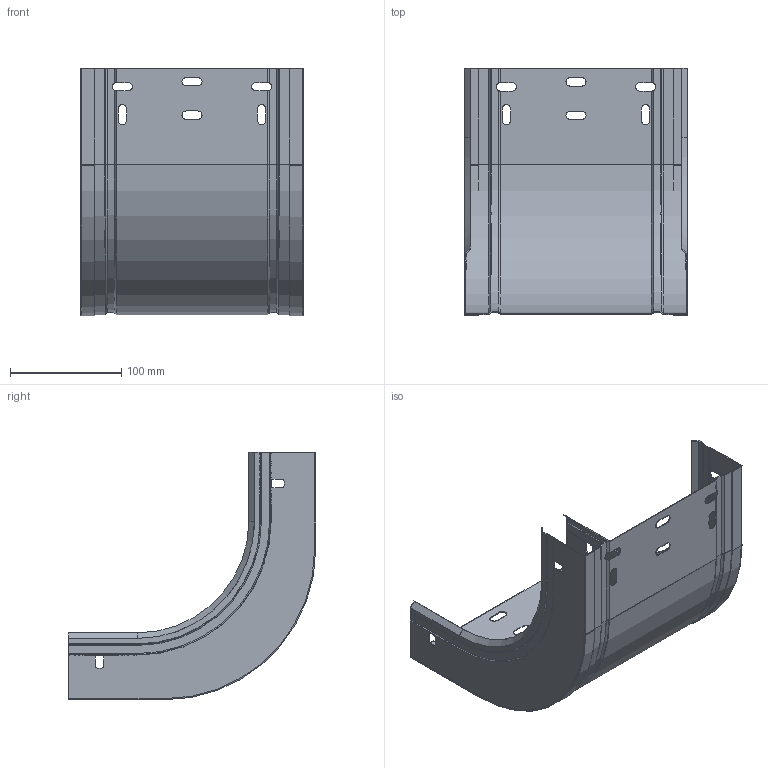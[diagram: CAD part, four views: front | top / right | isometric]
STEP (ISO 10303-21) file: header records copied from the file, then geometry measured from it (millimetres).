
FILE_DESCRIPTION (( 'STEP AP203' ), '1' );
FILE_NAME ('CCERC 200x60.STEP', '2020-02-12T12:06:05', ( '' ), ( '' ), 'SwSTEP 2.0', 'SolidWorks 2019', '' );
FILE_SCHEMA (( 'CONFIG_CONTROL_DESIGN' ));
Length unit declared in the file: millimetre
Products named in the file (3): ERE_BASE CC_200x60; ERE_LATERAL CC_60; CCERC 200x60
Assembly tree (3 placements, depth 2):
  CCERC 200x60
    ERE_BASE CC_200x60
    ERE_LATERAL CC_60  x2
Bounding box: 200 x 222 x 222 mm (x, y, z)
Volume: 102783.4 mm3; surface area: 259747 mm2
Topology: 3 solids, 3 shells, 234 faces, 642 edges, 402 vertices
Faces by surface type: plane 146, cylinder 62, cone 22, torus 4
Entity records: 6006 total; most frequent: CARTESIAN_POINT 1036, ORIENTED_EDGE 988, DIRECTION 969, EDGE_CURVE 494, VECTOR 353, LINE 353, VERTEX_POINT 311, AXIS2_PLACEMENT_3D 308
